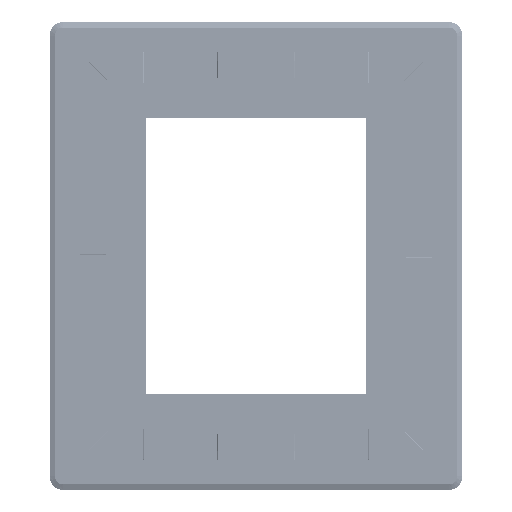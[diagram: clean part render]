
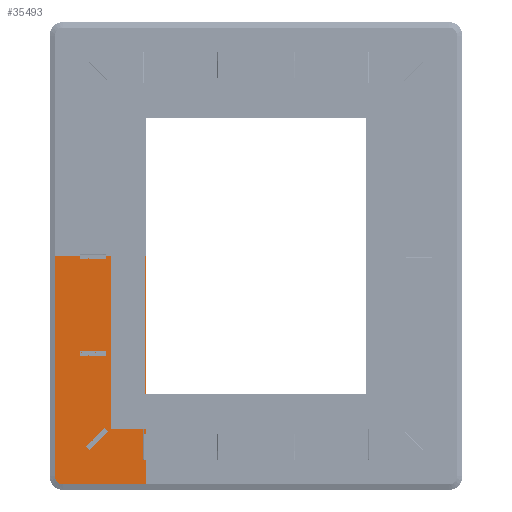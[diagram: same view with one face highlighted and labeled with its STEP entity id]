
A CAD part, front view. The second image highlights one B-rep face of the part: STEP entity #35493.
In plain terms, the highlighted planar face has unit normal (0, -1, 0).
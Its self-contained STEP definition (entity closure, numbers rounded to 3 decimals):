
#4001=FACE_BOUND('',#7279,.T.);
#4429=PLANE('',#39138);
#5491=FACE_OUTER_BOUND('',#7278,.T.);
#7278=EDGE_LOOP('',(#25305,#25306,#25307,#25308,#25309));
#7279=EDGE_LOOP('',(#25310,#25311,#25312,#25313));
#9475=LINE('',#55337,#12664);
#9479=LINE('',#55345,#12668);
#9482=LINE('',#55351,#12671);
#9485=LINE('',#55356,#12674);
#9488=LINE('',#55363,#12677);
#9494=LINE('',#55378,#12683);
#9501=LINE('',#55395,#12690);
#9505=LINE('',#55401,#12694);
#12664=VECTOR('',#44152,0.394);
#12668=VECTOR('',#44158,0.394);
#12671=VECTOR('',#44163,0.394);
#12674=VECTOR('',#44168,0.394);
#12677=VECTOR('',#44173,0.394);
#12683=VECTOR('',#44187,0.394);
#12690=VECTOR('',#44204,0.394);
#12694=VECTOR('',#44210,0.394);
#15449=CIRCLE('',#39129,3.596);
#16925=VERTEX_POINT('',#55335);
#16926=VERTEX_POINT('',#55336);
#16929=VERTEX_POINT('',#55344);
#16931=VERTEX_POINT('',#55350);
#16934=VERTEX_POINT('',#55360);
#16935=VERTEX_POINT('',#55362);
#16937=VERTEX_POINT('',#55368);
#16939=VERTEX_POINT('',#55374);
#16945=VERTEX_POINT('',#55394);
#20093=EDGE_CURVE('',#16925,#16926,#9475,.T.);
#20097=EDGE_CURVE('',#16926,#16929,#9479,.T.);
#20100=EDGE_CURVE('',#16929,#16931,#9482,.T.);
#20103=EDGE_CURVE('',#16931,#16925,#9485,.T.);
#20106=EDGE_CURVE('',#16934,#16935,#9488,.T.);
#20111=EDGE_CURVE('',#16935,#16937,#15449,.T.);
#20114=EDGE_CURVE('',#16937,#16939,#9494,.T.);
#20122=EDGE_CURVE('',#16939,#16945,#9501,.T.);
#20126=EDGE_CURVE('',#16945,#16934,#9505,.T.);
#25305=ORIENTED_EDGE('',*,*,#20106,.F.);
#25306=ORIENTED_EDGE('',*,*,#20126,.F.);
#25307=ORIENTED_EDGE('',*,*,#20122,.F.);
#25308=ORIENTED_EDGE('',*,*,#20114,.F.);
#25309=ORIENTED_EDGE('',*,*,#20111,.F.);
#25310=ORIENTED_EDGE('',*,*,#20100,.T.);
#25311=ORIENTED_EDGE('',*,*,#20103,.T.);
#25312=ORIENTED_EDGE('',*,*,#20093,.T.);
#25313=ORIENTED_EDGE('',*,*,#20097,.T.);
#35493=ADVANCED_FACE('',(#5491,#4001),#4429,.F.);
#39129=AXIS2_PLACEMENT_3D('',#55372,#44181,#44182);
#39138=AXIS2_PLACEMENT_3D('',#55403,#44213,#44214);
#44152=DIRECTION('',(0.,0.,1.));
#44158=DIRECTION('',(1.,0.,0.));
#44163=DIRECTION('',(0.,0.,-1.));
#44168=DIRECTION('',(-1.,0.,0.));
#44173=DIRECTION('',(0.,0.,-1.));
#44181=DIRECTION('center_axis',(0.,1.,0.));
#44182=DIRECTION('ref_axis',(1.,0.,0.));
#44187=DIRECTION('',(-1.,0.,0.));
#44204=DIRECTION('',(0.,0.,1.));
#44210=DIRECTION('',(1.,0.,0.));
#44213=DIRECTION('center_axis',(0.,1.,0.));
#44214=DIRECTION('ref_axis',(0.,0.,1.));
#55335=CARTESIAN_POINT('',(49.75,0.,-10.75));
#55336=CARTESIAN_POINT('',(49.75,0.,-4.75));
#55337=CARTESIAN_POINT('',(49.75,0.,-12.875));
#55344=CARTESIAN_POINT('',(57.625,0.,-4.75));
#55345=CARTESIAN_POINT('',(54.313,0.,-4.75));
#55350=CARTESIAN_POINT('',(57.625,0.,-10.75));
#55351=CARTESIAN_POINT('',(57.625,0.,-15.875));
#55356=CARTESIAN_POINT('',(50.375,0.,-10.75));
#55360=CARTESIAN_POINT('',(99.596,0.,0.));
#55362=CARTESIAN_POINT('',(99.596,0.,-36.));
#55363=CARTESIAN_POINT('',(99.596,0.,-10.5));
#55368=CARTESIAN_POINT('',(96.,0.,-39.596));
#55372=CARTESIAN_POINT('Origin',(96.,0.,-36.));
#55374=CARTESIAN_POINT('',(0.,0.,-39.596));
#55378=CARTESIAN_POINT('',(73.5,0.,-39.596));
#55394=CARTESIAN_POINT('',(0.,0.,0.));
#55395=CARTESIAN_POINT('',(0.,0.,-42.));
#55401=CARTESIAN_POINT('',(0.,0.,0.));
#55403=CARTESIAN_POINT('Origin',(51.,0.,-21.));
